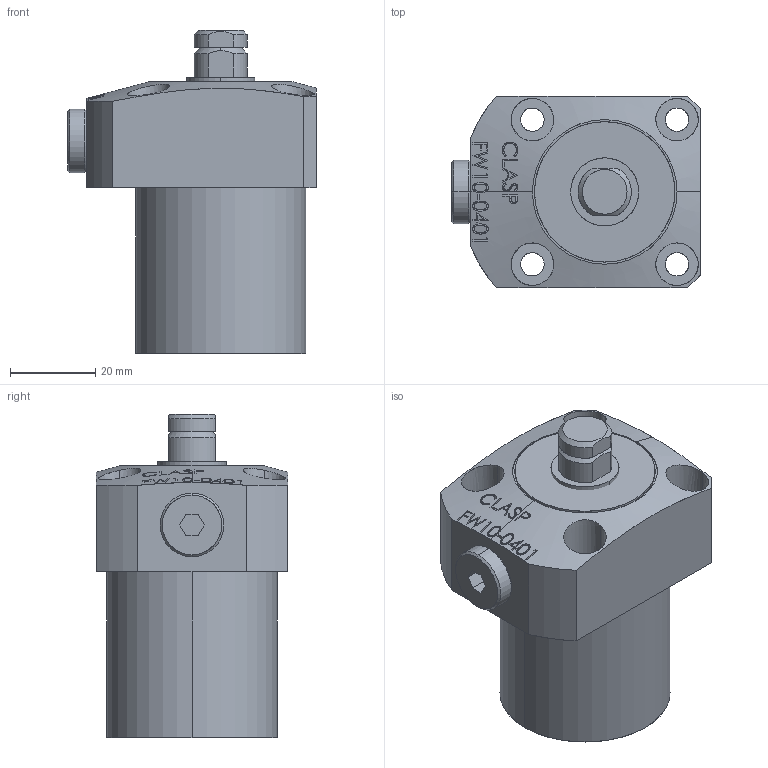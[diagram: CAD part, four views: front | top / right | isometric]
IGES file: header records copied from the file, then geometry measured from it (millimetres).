
Start section: SolidWorks IGES file using analytic representation for surfaces
Global section: file name: D:\karuppas\Clasp\3D model\Work support\Work support FW10-0401\FW10-0401 Work support.IGS; native system: SolidWorks 2017; preprocessor: SolidWorks 2017; author: pc; date: 220709.224124; units: millimetre
Bounding box: 58.5 x 45 x 76 mm (x, y, z)
Surface area: 21044.8 mm2 (no closed solid volume)
Topology: 0 solids, 0 shells, 249 faces, 4146 edges, 4144 vertices
Faces by surface type: bspline 187, revolution 62
